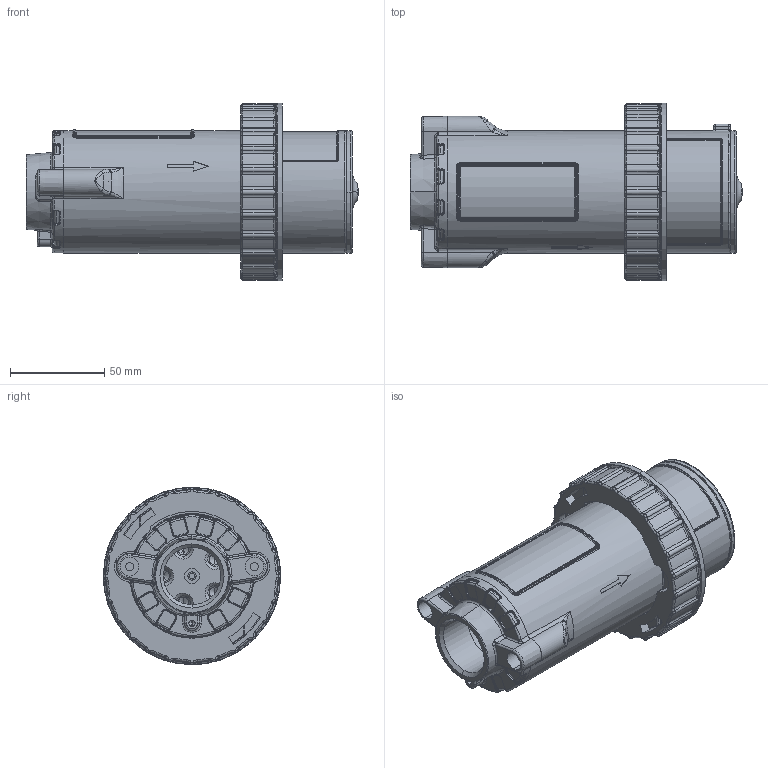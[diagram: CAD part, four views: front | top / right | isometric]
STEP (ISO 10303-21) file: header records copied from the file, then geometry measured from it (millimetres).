
FILE_DESCRIPTION (( 'STEP AP214' ), '1' );
FILE_NAME ('ÂÃÌ-16-250-4_Ì32õ1,5_Ì2.STEP', '2024-01-24T13:00:51', ( '' ), ( '' ), 'SwSTEP 2.0', 'SolidWorks 2018', '' );
FILE_SCHEMA (( 'AUTOMOTIVE_DESIGN' ));
Length unit declared in the file: millimetre
Products named in the file (1): ÂÃÌ-16-250-4_Ì32õ1,5_Ì2
Bounding box: 176.08 x 94 x 94 mm (x, y, z)
Volume: 310585.9 mm3; surface area: 156993.9 mm2
Topology: 12 solids, 12 shells, 2063 faces, 5168 edges, 3150 vertices
Faces by surface type: plane 713, cylinder 520, bspline 359, torus 334, cone 111, sphere 26
Full cylindrical faces by diameter (mm): 30.5 x1, 56 x1, 65 x2
Entity records: 106426 total; most frequent: CARTESIAN_POINT 37080, ORIENTED_EDGE 10204, DIRECTION 8851, EDGE_CURVE 5102, AXIS2_PLACEMENT_3D 3235, VERTEX_POINT 3127, LINE 2381, VECTOR 2381
